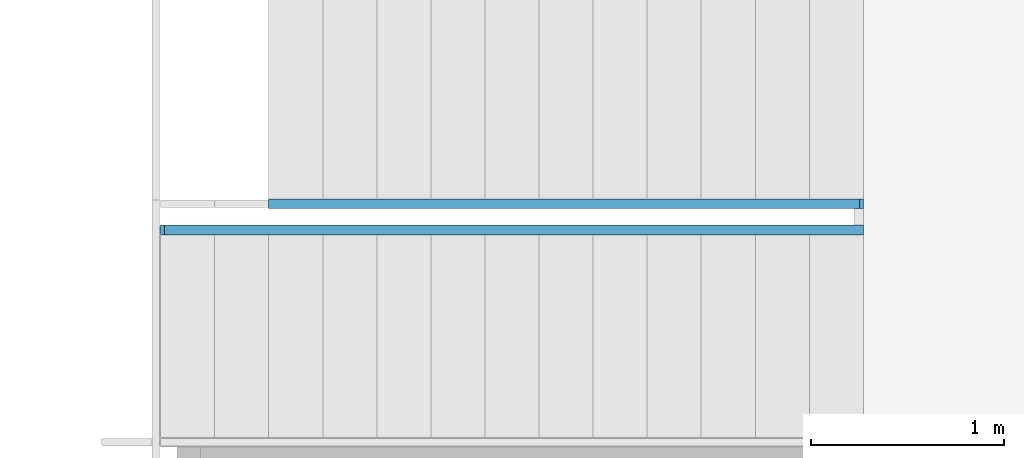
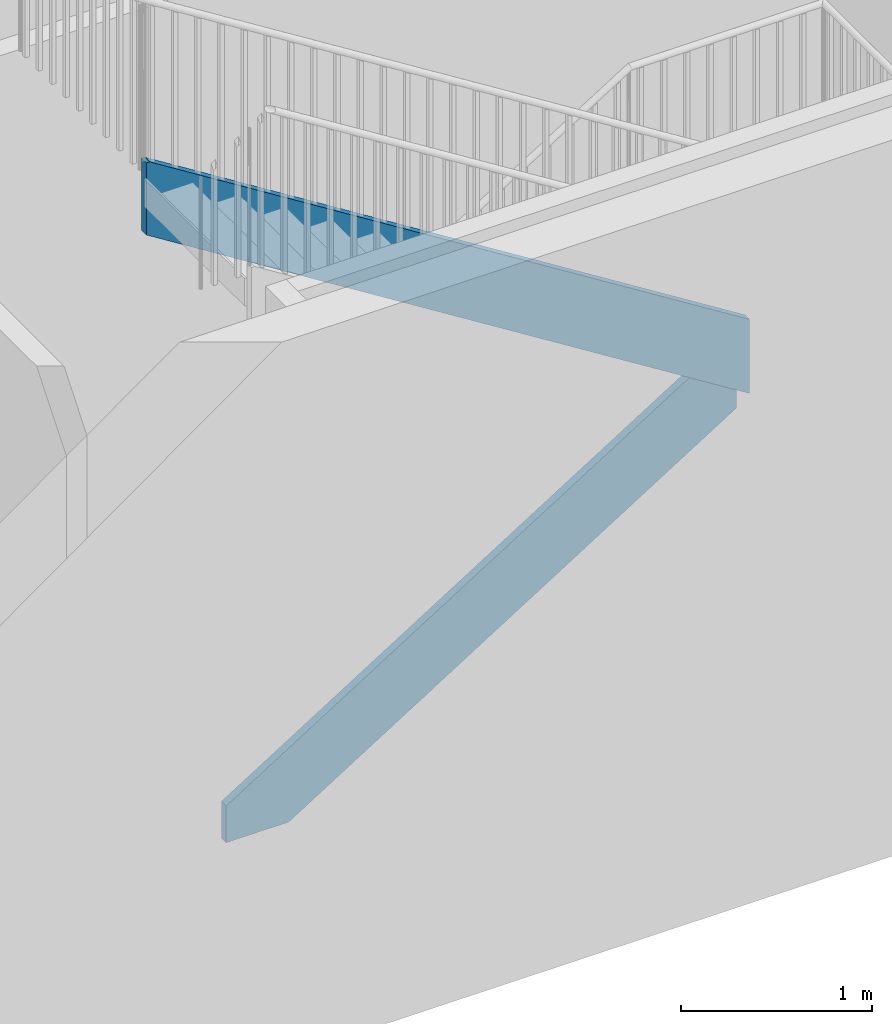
# One storey, part 5 of 87: 2 members, 1 element without a shape of its own.
"""IFC2X3 building model written with IfcOpenShell, lengths in metres."""

import ifcopenshell
import ifcopenshell.guid

model = None  # the IFC model being written
_history = None  # IfcOwnerHistory: only IFC2X3 demands one
_inside = {}  # id of a spatial element -> (the spatial element, [elements in it])
_under = {}  # id of a project, library or spatial element -> (it, [spatial elements below it])
_declared = {}  # id of a project -> (the project, [libraries it declares])
_typed = {}  # id of a type object -> (the type object, [elements of that type])
_made_of = {}  # id of a material, layer set ... -> (it, [elements and type objects made of it])


def new_model(schema):
    """Start an empty IFC model of exactly this schema.

    Asked for "IFC4X3", IfcOpenShell would pick the latest addendum, in which some entities
    have other attributes; the version numbers below select the first issue.
    IFC2X3 requires an IfcOwnerHistory on every rooted entity: one is made here for all.
    """
    global model, _history
    if schema == "IFC4X3":
        model = ifcopenshell.file(schema_version=(4, 3, 0, 0))
    else:
        model = ifcopenshell.file(schema=schema)
    _inside.clear()
    _under.clear()
    _declared.clear()
    _typed.clear()
    _made_of.clear()
    _history = None
    if model.schema == "IFC2X3":
        org = make("IfcOrganization", Name="unknown")
        user = make(
            "IfcPersonAndOrganization",
            ThePerson=make("IfcPerson", FamilyName="unknown"),
            TheOrganization=org,
        )
        app = make(
            "IfcApplication",
            ApplicationDeveloper=org,
            Version="unknown",
            ApplicationFullName="unknown",
            ApplicationIdentifier="unknown",
        )
        _history = make(
            "IfcOwnerHistory",
            OwningUser=user,
            OwningApplication=app,
            ChangeAction="ADDED",
            CreationDate=0,
        )
    return model


def make(cls, **values):
    """One entity of the class cls with the attributes given. An attribute that is None is left unset."""
    return model.create_entity(
        cls, **{name: value for name, value in values.items() if value is not None}
    )


def entity(cls, *values):
    """Any entity or typed value of the class cls, its attributes in the order of the schema. None: left unset."""
    e = model.create_entity(cls)
    for i, value in enumerate(values):
        if value is not None:
            e[i] = value
    return e


def rooted(cls, **values):
    """An entity with a GlobalId (a new one), such as an element, a storey or a relation."""
    return make(cls, GlobalId=ifcopenshell.guid.new(), OwnerHistory=_history, **values)


def si_unit(unit_type, name, prefix=None):
    """IfcSIUnit, for example si_unit("LENGTHUNIT", "METRE", prefix="MILLI")."""
    return make("IfcSIUnit", UnitType=unit_type, Prefix=prefix, Name=name)


def converted_unit(unit_type, name, factor, base, dimensions=None, offset=None):
    """IfcConversionBasedUnit, such as the inch: factor (a typed value) times the base unit."""
    return make(
        "IfcConversionBasedUnit"
        if offset is None
        else "IfcConversionBasedUnitWithOffset",
        ConversionOffset=offset,
        Dimensions=None
        if dimensions is None
        else entity("IfcDimensionalExponents", *dimensions),
        UnitType=unit_type,
        Name=name,
        ConversionFactor=make(
            "IfcMeasureWithUnit", ValueComponent=factor, UnitComponent=base
        ),
    )


def assignment(units):
    """IfcUnitAssignment: the units of a project."""
    return None if units is None else make("IfcUnitAssignment", Units=units)


def point(xyz):
    """IfcCartesianPoint."""
    return None if xyz is None else make("IfcCartesianPoint", Coordinates=xyz)


def direction(xyz):
    """IfcDirection."""
    return None if xyz is None else make("IfcDirection", DirectionRatios=xyz)


def frame(location, z_axis=None, x_axis=None):
    """IfcAxis2Placement3D, a coordinate frame: its origin and axes. An axis left out is left unset."""
    return make(
        "IfcAxis2Placement3D",
        Location=point(location),
        Axis=direction(z_axis),
        RefDirection=direction(x_axis),
    )


def origin():
    """The frame at (0, 0, 0) with its axes left unset."""
    return frame((0.0, 0.0, 0.0))


def place(relative_to, where):
    """IfcLocalPlacement: puts the frame where relative to a parent placement (None: the world)."""
    return make(
        "IfcLocalPlacement", PlacementRelTo=relative_to, RelativePlacement=where
    )


def context(
    kind, dimensions, precision=None, world=None, true_north=None, identifier=None
):
    """IfcGeometricRepresentationContext, for example the 3D "Model" context."""
    return make(
        "IfcGeometricRepresentationContext",
        ContextIdentifier=identifier,
        ContextType=kind,
        CoordinateSpaceDimension=dimensions,
        Precision=precision,
        WorldCoordinateSystem=world,
        TrueNorth=true_north,
    )


def project(units=None, contexts=None):
    """IfcProject with its units and contexts."""
    return rooted(
        "IfcProject",
        Name="project",
        RepresentationContexts=contexts,
        UnitsInContext=assignment(units),
    )


def spatial(cls, under=None, at=None, **own):
    """A site, building, storey or space (cls), placed at a placement, below another one or the project."""
    s = rooted(cls, ObjectPlacement=at, **own)
    if under is not None:
        _under.setdefault(under.id(), (under, []))[1].append(s)
    return s


def polyline(points):
    """IfcPolyline through the points."""
    return make("IfcPolyline", Points=[point(p) for p in points])


def outline(outer, holes=None, kind="AREA"):
    """IfcArbitraryClosedProfileDef: a profile drawn as a closed curve; with holes, ...WithVoids."""
    if holes is None:
        return make("IfcArbitraryClosedProfileDef", ProfileType=kind, OuterCurve=outer)
    return make(
        "IfcArbitraryProfileDefWithVoids",
        ProfileType=kind,
        OuterCurve=outer,
        InnerCurves=holes,
    )


def extrude(swept, where, along, depth):
    """IfcExtrudedAreaSolid: the profile swept, set in the frame where, extruded along a direction by depth."""
    return make(
        "IfcExtrudedAreaSolid",
        SweptArea=swept,
        Position=where,
        ExtrudedDirection=direction(along),
        Depth=depth,
    )


def shape(context_of_items, identifier, shape_type, items):
    """IfcShapeRepresentation: the items that make up one representation, for example the "Body"."""
    return make(
        "IfcShapeRepresentation",
        ContextOfItems=context_of_items,
        RepresentationIdentifier=identifier,
        RepresentationType=shape_type,
        Items=items,
    )


def made_of(thing, what):
    """Note that an element or type object is made of a material, layer set ...; save() writes the relation."""
    if what is not None:
        _made_of.setdefault(what.id(), (what, []))[1].append(thing)
    return thing


def element(
    cls,
    number,
    at=None,
    inside=None,
    cuts=None,
    type_object=None,
    material=None,
    context=None,
    identifier="Body",
    shape_type=None,
    held_by="IfcProductDefinitionShape",
    body=None,
    shapes=None,
    **own,
):
    """One element of the class cls, such as IfcWall. Its Tag is "e" and its number.

    at: its placement. inside: the storey or other place that contains it. cuts: it is an
    opening in that element (IfcRelVoidsElement). A single representation is given by context,
    identifier, shape_type and body (its items); several are given by shapes. held_by: the class
    of the entity that holds the representations. save() writes the other relations.
    """
    e = rooted(cls, Tag="e%d" % number, ObjectPlacement=at, **own)
    if body is not None:
        shapes = [shape(context, identifier, shape_type, body)]
    if shapes is not None:
        e.Representation = make(held_by, Representations=shapes)
    if inside is not None:
        _inside.setdefault(inside.id(), (inside, []))[1].append(e)
    if cuts is not None:
        rooted(
            "IfcRelVoidsElement", RelatingBuildingElement=cuts, RelatedOpeningElement=e
        )
    if type_object is not None:
        _typed.setdefault(type_object.id(), (type_object, []))[1].append(e)
    return made_of(e, material)


def aggregate(whole, parts):
    """IfcRelAggregates: a whole, such as a stair, and the parts it consists of."""
    return rooted("IfcRelAggregates", RelatingObject=whole, RelatedObjects=parts)


def save(model, path):
    """Write the relations noted so far, then the file.

    IfcRelAggregates (storeys below a building ...), IfcRelContainedInSpatialStructure (elements
    in a storey), IfcRelDefinesByType, IfcRelAssociatesMaterial and IfcRelDeclares: one each for
    every whole, place, type object, material and project.
    """
    for whole, parts in _under.values():
        aggregate(whole, parts)
    for where, things in _inside.values():
        rooted(
            "IfcRelContainedInSpatialStructure",
            RelatedElements=things,
            RelatingStructure=where,
        )
    for kind, things in _typed.values():
        rooted("IfcRelDefinesByType", RelatedObjects=things, RelatingType=kind)
    for what, things in _made_of.values():
        rooted("IfcRelAssociatesMaterial", RelatedObjects=things, RelatingMaterial=what)
    for by, libraries in _declared.values():
        rooted("IfcRelDeclares", RelatingContext=by, RelatedDefinitions=libraries)
    model.write(path)


model = new_model("IFC2X3")

# Units and contexts
model_context = context("Model", 3, precision=1e-09, world=origin())
plan_context = context("Plan", 3, precision=1e-09, world=origin())
ifc_project = project(units=[si_unit("LENGTHUNIT", "METRE"), si_unit("AREAUNIT", "SQUARE_METRE"), si_unit("VOLUMEUNIT", "CUBIC_METRE"), converted_unit("PLANEANGLEUNIT", "DEGREE", entity("IfcRatioMeasure", 0.01745329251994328), si_unit("PLANEANGLEUNIT", "RADIAN"), dimensions=[0, 0, 0, 0, 0, 0, 0]), si_unit("TIMEUNIT", "SECOND")], contexts=[model_context, plan_context])

# Site, building, storey
site_placement = place(None, origin())
site = spatial("IfcSite", under=ifc_project, at=site_placement, Name="Default", CompositionType="ELEMENT")
building_placement = place(site_placement, origin())
building = spatial("IfcBuilding", under=site, at=building_placement, CompositionType="ELEMENT")
storey_placement = place(building_placement, origin())
storey = spatial("IfcBuildingStorey", under=building, at=storey_placement, Name="First Floor", CompositionType="ELEMENT", Elevation=-3.531500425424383e-13)

# Stair, members
stair_placement = place(storey_placement, origin())
stair = element("IfcStair", 1, at=stair_placement, inside=storey, Name="Stair:Concrete Pan - 180mm Max Riser 280mm Tread", ObjectType="Stair:Concrete Pan - 180mm Max Riser 280mm Tread", ShapeType="HALF_TURN_STAIR")
member_1_placement = place(storey_placement, origin())
member_1 = element("IfcMember", 2, at=member_1_placement, Name="Stair:Concrete Pan - 180mm Max Riser 280mm Tread:2", ObjectType="stringer", context=model_context, shape_type="SweptSolid", body=[
    extrude(outline(polyline([(-1.783145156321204, -0.1682613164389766), (1.82997523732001, -0.1682613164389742), (1.846799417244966, -0.1576999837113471), (1.602330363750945, 0.231738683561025), (-1.587888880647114, 0.2317386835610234), (-1.908070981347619, 0.03074524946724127), (-1.783145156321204, -0.1682613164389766)])), frame((-14.35430377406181, 11.50599999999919, 1.040505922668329), z_axis=(0.0, 1.0, 0.0), x_axis=(0.8469509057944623, 0.0, 0.5316711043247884)), (0.0, 0.0, 1.0), 0.04999999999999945),
])
member_2_placement = place(storey_placement, origin())
member_2 = element("IfcMember", 3, at=member_2_placement, Name="Stair:Concrete Pan - 180mm Max Riser 280mm Tread:3", ObjectType="stringer", context=model_context, shape_type="SweptSolid", body=[
    extrude(outline(polyline([(-2.723304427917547, -0.2378877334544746), (1.57446534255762, -0.2378877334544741), (1.818934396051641, 0.151550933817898), (1.802110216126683, 0.1621122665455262), (-2.472205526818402, 0.1621122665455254), (-2.723304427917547, -0.2378877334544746)])), frame((-15.05402697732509, 11.36999983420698, 3.521298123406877), z_axis=(0.0, 1.0, 0.0), x_axis=(-0.8469509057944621, 0.0, 0.5316711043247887)), (0.0, 0.0, 1.0), 0.04999999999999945),
])
aggregate(stair, [member_1, member_2])

save(model, "model.ifc")
